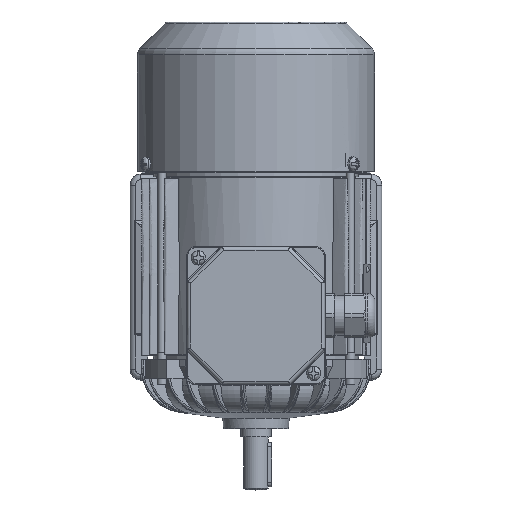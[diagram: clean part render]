
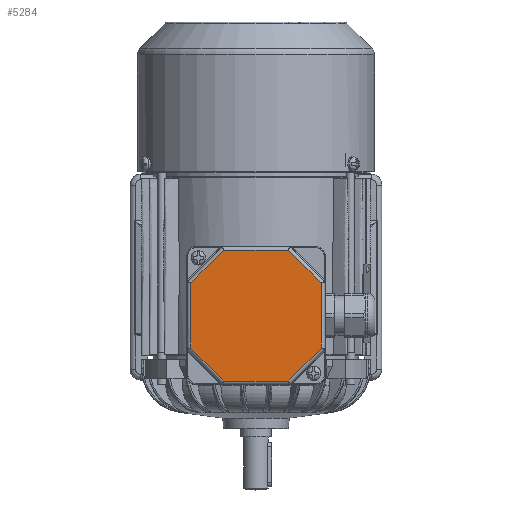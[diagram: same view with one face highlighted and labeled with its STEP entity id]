
A CAD part, top view. The second image highlights one B-rep face of the part: STEP entity #5284.
In plain terms, the highlighted planar face has unit normal (0, 0, 1).
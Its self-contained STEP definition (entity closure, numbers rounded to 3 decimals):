
#5284 = ADVANCED_FACE( '', ( #12191 ), #12192, .T. );
#12191 = FACE_OUTER_BOUND( '', #38541, .T. );
#12192 = PLANE( '', #38542 );
#38541 = EDGE_LOOP( '', ( #93180, #93181, #93182, #93183, #93184, #93185, #93186, #93187 ) );
#38542 = AXIS2_PLACEMENT_3D( '', #93188, #93189, #93190 );
#93180 = ORIENTED_EDGE( '', *, *, #113013, .T. );
#93181 = ORIENTED_EDGE( '', *, *, #115213, .T. );
#93182 = ORIENTED_EDGE( '', *, *, #115214, .T. );
#93183 = ORIENTED_EDGE( '', *, *, #115215, .T. );
#93184 = ORIENTED_EDGE( '', *, *, #115216, .T. );
#93185 = ORIENTED_EDGE( '', *, *, #115217, .T. );
#93186 = ORIENTED_EDGE( '', *, *, #115218, .T. );
#93187 = ORIENTED_EDGE( '', *, *, #115219, .T. );
#93188 = CARTESIAN_POINT( '', ( -39., 39., 12. ) );
#93189 = DIRECTION( '', ( 0., 0., 1. ) );
#93190 = DIRECTION( '', ( 1., 0., 0. ) );
#113013 = EDGE_CURVE( '', #124825, #124823, #124826, .F. );
#115213 = EDGE_CURVE( '', #124823, #128389, #128390, .T. );
#115214 = EDGE_CURVE( '', #128389, #128391, #128392, .F. );
#115215 = EDGE_CURVE( '', #128391, #128393, #128394, .T. );
#115216 = EDGE_CURVE( '', #128393, #125015, #128395, .F. );
#115217 = EDGE_CURVE( '', #125015, #125974, #128396, .T. );
#115218 = EDGE_CURVE( '', #125974, #128397, #128398, .F. );
#115219 = EDGE_CURVE( '', #128397, #124825, #128399, .T. );
#124823 = VERTEX_POINT( '', #150676 );
#124825 = VERTEX_POINT( '', #150678 );
#124826 = LINE( '', #150679, #150680 );
#125015 = VERTEX_POINT( '', #151678 );
#125974 = VERTEX_POINT( '', #154849 );
#128389 = VERTEX_POINT( '', #165222 );
#128390 = LINE( '', #165223, #165224 );
#128391 = VERTEX_POINT( '', #165225 );
#128392 = LINE( '', #165226, #165227 );
#128393 = VERTEX_POINT( '', #165228 );
#128394 = LINE( '', #165229, #165230 );
#128395 = LINE( '', #165231, #165232 );
#128396 = LINE( '', #165233, #165234 );
#128397 = VERTEX_POINT( '', #165235 );
#128398 = LINE( '', #165236, #165237 );
#128399 = LINE( '', #165238, #165239 );
#150676 = CARTESIAN_POINT( '', ( 36.825, 18.255, 12. ) );
#150678 = CARTESIAN_POINT( '', ( 36.825, -18.255, 12. ) );
#150679 = CARTESIAN_POINT( '', ( 36.825, 19.069, 12. ) );
#150680 = VECTOR( '', #200539, 1000. );
#151678 = CARTESIAN_POINT( '', ( -36.825, -18.255, 12. ) );
#154849 = CARTESIAN_POINT( '', ( -18.255, -36.825, 12. ) );
#165222 = CARTESIAN_POINT( '', ( 18.255, 36.825, 12. ) );
#165223 = CARTESIAN_POINT( '', ( 17.679, 37.401, 12. ) );
#165224 = VECTOR( '', #202879, 1000. );
#165225 = CARTESIAN_POINT( '', ( -18.255, 36.825, 12. ) );
#165226 = CARTESIAN_POINT( '', ( -19.069, 36.825, 12. ) );
#165227 = VECTOR( '', #202880, 1000. );
#165228 = CARTESIAN_POINT( '', ( -36.825, 18.255, 12. ) );
#165229 = CARTESIAN_POINT( '', ( -37.401, 17.679, 12. ) );
#165230 = VECTOR( '', #202881, 1000. );
#165231 = CARTESIAN_POINT( '', ( -36.825, -19.069, 12. ) );
#165232 = VECTOR( '', #202882, 1000. );
#165233 = CARTESIAN_POINT( '', ( -17.679, -37.401, 12. ) );
#165234 = VECTOR( '', #202883, 1000. );
#165235 = CARTESIAN_POINT( '', ( 18.255, -36.825, 12. ) );
#165236 = CARTESIAN_POINT( '', ( 19.069, -36.825, 12. ) );
#165237 = VECTOR( '', #202884, 1000. );
#165238 = CARTESIAN_POINT( '', ( 37.401, -17.679, 12. ) );
#165239 = VECTOR( '', #202885, 1000. );
#200539 = DIRECTION( '', ( 0., -1., 0. ) );
#202879 = DIRECTION( '', ( -0.707, 0.707, 0. ) );
#202880 = DIRECTION( '', ( 1., 0., 0. ) );
#202881 = DIRECTION( '', ( -0.707, -0.707, 0. ) );
#202882 = DIRECTION( '', ( 0., 1., 0. ) );
#202883 = DIRECTION( '', ( 0.707, -0.707, 0. ) );
#202884 = DIRECTION( '', ( -1., 0., 0. ) );
#202885 = DIRECTION( '', ( 0.707, 0.707, 0. ) );
